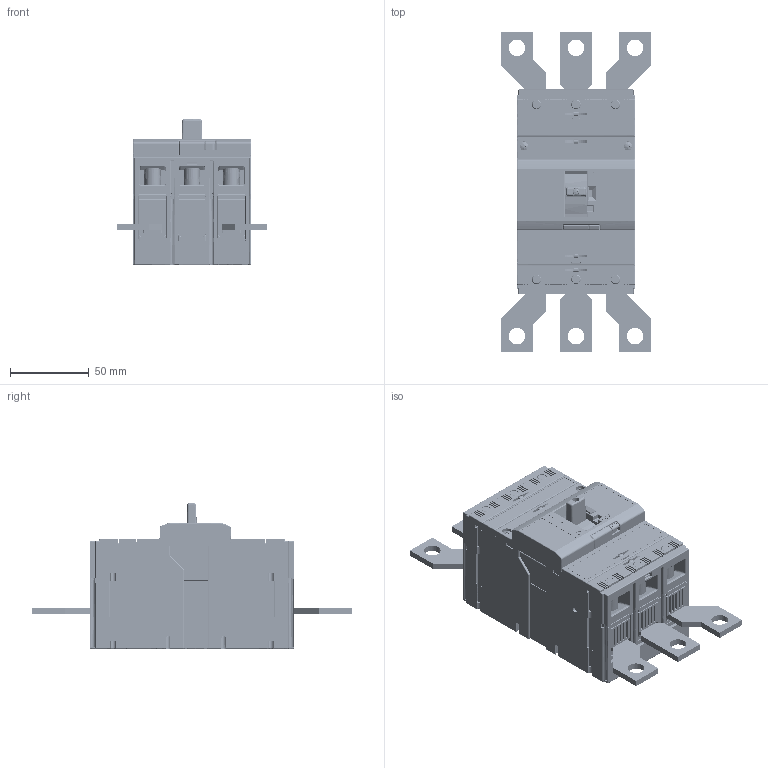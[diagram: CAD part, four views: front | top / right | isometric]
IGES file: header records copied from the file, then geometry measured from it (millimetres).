
Start section: SolidWorks IGES file using analytic representation for surfaces
Global section: file name: U:\14_RD\05_Technical_office\04_Office\Hrdinova\3D modely - IGES\Modeion\BC160NT305__CS-BC-A033.IGS; native system: SolidWorks 2011; preprocessor: SolidWorks 2011; author: adhrja3; date: 170615.121603; units: millimetre
Bounding box: 95 x 203 x 92.5 mm (x, y, z)
Surface area: 154367.5 mm2 (no closed solid volume)
Topology: 0 solids, 0 shells, 4599 faces, 39524 edges, 39483 vertices
Faces by surface type: bspline 3053, revolution 1546
